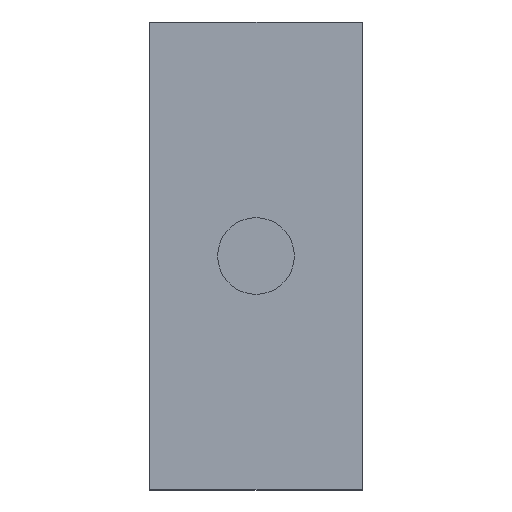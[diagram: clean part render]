
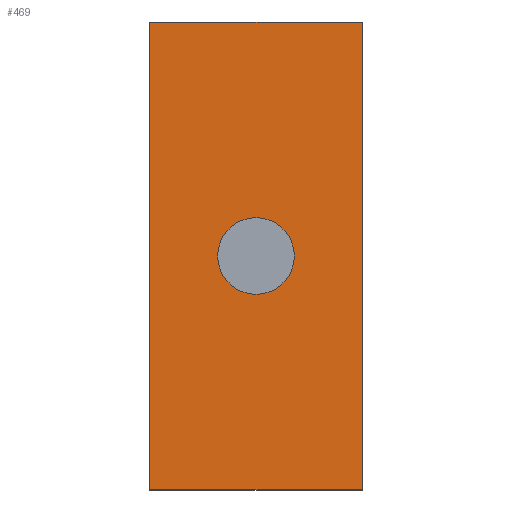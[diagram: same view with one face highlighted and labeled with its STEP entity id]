
A CAD part, left-side view. The second image highlights one B-rep face of the part: STEP entity #469.
In plain terms, the highlighted planar face has unit normal (-1, 0, 0).
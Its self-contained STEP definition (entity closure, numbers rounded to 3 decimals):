
#1 = VERTEX_POINT ( 'NONE', #460 ) ;
#15 = CARTESIAN_POINT ( 'NONE',  ( 0., 5., -9.2 ) ) ;
#20 = CARTESIAN_POINT ( 'NONE',  ( 0., 10., 0. ) ) ;
#26 = VERTEX_POINT ( 'NONE', #351 ) ;
#32 = VECTOR ( 'NONE', #311, 1000. ) ;
#33 = PLANE ( 'NONE',  #225 ) ;
#36 = EDGE_CURVE ( 'NONE', #26, #440, #125, .T. ) ;
#62 = EDGE_CURVE ( 'NONE', #108, #140, #224, .T. ) ;
#64 = DIRECTION ( 'NONE',  ( 0., -1., 0. ) ) ;
#73 = FACE_OUTER_BOUND ( 'NONE', #313, .T. ) ;
#78 = CIRCLE ( 'NONE', #317, 1.8 ) ;
#81 = DIRECTION ( 'NONE',  ( -1., 0., 0. ) ) ;
#83 = ORIENTED_EDGE ( 'NONE', *, *, #101, .F. ) ;
#89 = LINE ( 'NONE', #192, #503 ) ;
#100 = LINE ( 'NONE', #137, #404 ) ;
#101 = EDGE_CURVE ( 'NONE', #297, #1, #89, .T. ) ;
#104 = EDGE_LOOP ( 'NONE', ( #157, #250 ) ) ;
#108 = VERTEX_POINT ( 'NONE', #321 ) ;
#125 = LINE ( 'NONE', #218, #32 ) ;
#129 = CARTESIAN_POINT ( 'NONE',  ( 0., 10., -22. ) ) ;
#137 = CARTESIAN_POINT ( 'NONE',  ( 0., 10., -22. ) ) ;
#140 = VERTEX_POINT ( 'NONE', #15 ) ;
#146 = DIRECTION ( 'NONE',  ( 0., 0., -1. ) ) ;
#157 = ORIENTED_EDGE ( 'NONE', *, *, #312, .F. ) ;
#188 = DIRECTION ( 'NONE',  ( 1., 0., 0. ) ) ;
#192 = CARTESIAN_POINT ( 'NONE',  ( 0., 10., -22. ) ) ;
#203 = CARTESIAN_POINT ( 'NONE',  ( 0., 5., -11. ) ) ;
#212 = ORIENTED_EDGE ( 'NONE', *, *, #328, .F. ) ;
#218 = CARTESIAN_POINT ( 'NONE',  ( 0., 0., -22. ) ) ;
#224 = CIRCLE ( 'NONE', #353, 1.8 ) ;
#225 = AXIS2_PLACEMENT_3D ( 'NONE', #338, #188, #146 ) ;
#231 = ORIENTED_EDGE ( 'NONE', *, *, #373, .T. ) ;
#236 = LINE ( 'NONE', #20, #315 ) ;
#250 = ORIENTED_EDGE ( 'NONE', *, *, #62, .F. ) ;
#266 = DIRECTION ( 'NONE',  ( 0., 0., 1. ) ) ;
#297 = VERTEX_POINT ( 'NONE', #129 ) ;
#298 = CARTESIAN_POINT ( 'NONE',  ( 0., 5., -11. ) ) ;
#303 = CARTESIAN_POINT ( 'NONE',  ( 0., 0., 0. ) ) ;
#304 = DIRECTION ( 'NONE',  ( 0., -1., 0. ) ) ;
#311 = DIRECTION ( 'NONE',  ( 0., 0., 1. ) ) ;
#312 = EDGE_CURVE ( 'NONE', #140, #108, #78, .T. ) ;
#313 = EDGE_LOOP ( 'NONE', ( #449, #212, #83, #231 ) ) ;
#315 = VECTOR ( 'NONE', #64, 1000. ) ;
#317 = AXIS2_PLACEMENT_3D ( 'NONE', #298, #376, #266 ) ;
#321 = CARTESIAN_POINT ( 'NONE',  ( 0., 5., -12.8 ) ) ;
#322 = DIRECTION ( 'NONE',  ( 0., 0., 1. ) ) ;
#328 = EDGE_CURVE ( 'NONE', #1, #440, #236, .T. ) ;
#338 = CARTESIAN_POINT ( 'NONE',  ( 0., 10., -22. ) ) ;
#351 = CARTESIAN_POINT ( 'NONE',  ( 0., 0., -22. ) ) ;
#353 = AXIS2_PLACEMENT_3D ( 'NONE', #203, #81, #395 ) ;
#357 = FACE_BOUND ( 'NONE', #104, .T. ) ;
#373 = EDGE_CURVE ( 'NONE', #297, #26, #100, .T. ) ;
#376 = DIRECTION ( 'NONE',  ( -1., 0., 0. ) ) ;
#395 = DIRECTION ( 'NONE',  ( 0., 0., 1. ) ) ;
#404 = VECTOR ( 'NONE', #304, 1000. ) ;
#440 = VERTEX_POINT ( 'NONE', #303 ) ;
#449 = ORIENTED_EDGE ( 'NONE', *, *, #36, .T. ) ;
#460 = CARTESIAN_POINT ( 'NONE',  ( 0., 10., 0. ) ) ;
#469 = ADVANCED_FACE ( 'NONE', ( #357, #73 ), #33, .F. ) ;
#503 = VECTOR ( 'NONE', #322, 1000. ) ;
